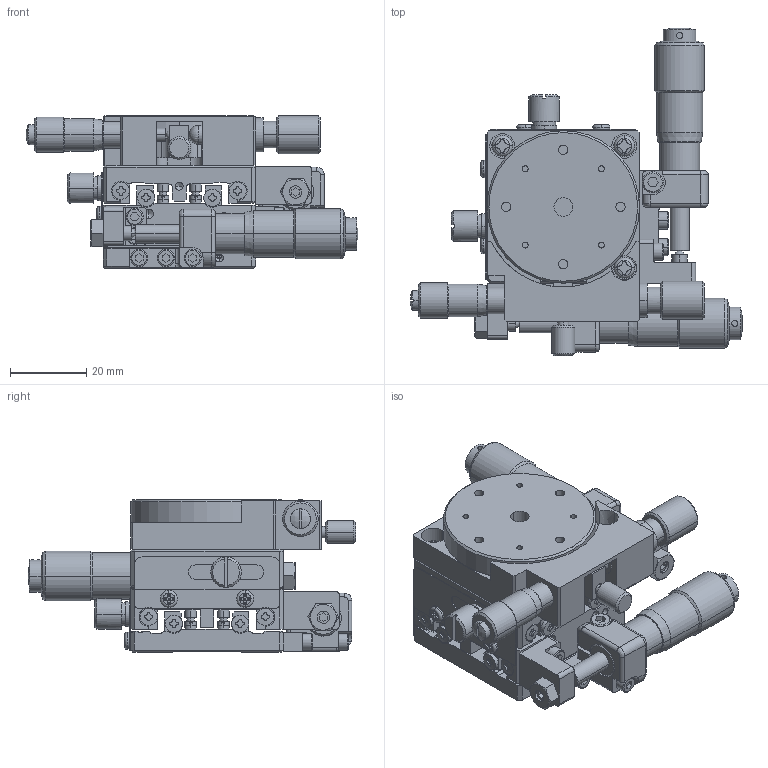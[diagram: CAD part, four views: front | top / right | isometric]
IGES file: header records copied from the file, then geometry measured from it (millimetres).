
Global section: file name: No Iges File Name specified; native system: AutoDesk Inventor R12.0; preprocessor: AutoDesk Inventor Iges Exporter R12.0; author: No Author specified; organization: No Organization specified; date: 20081103.161515; units: millimetre
Bounding box: 87.07 x 85.87 x 40 mm (x, y, z)
Volume: 72883.6 mm3; surface area: 51454.9 mm2
Topology: 4 solids, 64 shells, 2293 faces, 5570 edges, 3526 vertices
Faces by surface type: plane 838, bspline 555, cylinder 506, cone 174, revolution 160, sphere 40, torus 20
